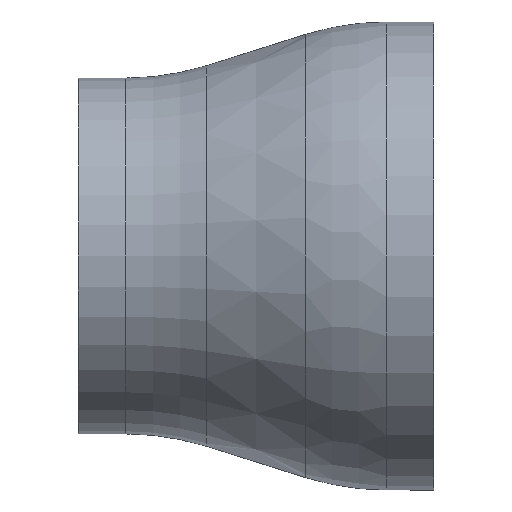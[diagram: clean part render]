
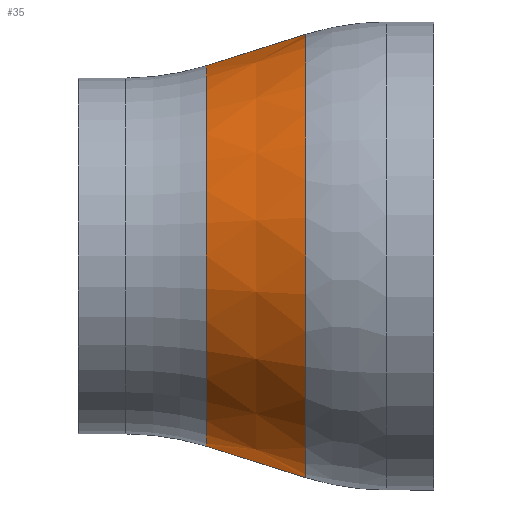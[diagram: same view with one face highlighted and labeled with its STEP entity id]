
A CAD part, front view. The second image highlights one B-rep face of the part: STEP entity #35.
In plain terms, the highlighted conical face has half-angle 17.484 degrees and reference radius 15.82 mm.
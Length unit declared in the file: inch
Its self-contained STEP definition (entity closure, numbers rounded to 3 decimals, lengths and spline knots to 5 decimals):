
#3 = VERTEX_POINT ( 'NONE', #431 ) ;
#19 = CIRCLE ( 'NONE', #492, 0.62285 ) ;
#21 = VECTOR ( 'NONE', #573, 39.37008 ) ;
#35 = ADVANCED_FACE ( 'NONE', ( #276 ), #254, .T. ) ;
#63 = EDGE_CURVE ( 'NONE', #413, #138, #261, .T. ) ;
#70 = LINE ( 'NONE', #302, #21 ) ;
#138 = VERTEX_POINT ( 'NONE', #158 ) ;
#145 = AXIS2_PLACEMENT_3D ( 'NONE', #374, #368, #364 ) ;
#158 = CARTESIAN_POINT ( 'NONE',  ( 0.64, 0., 0.62285 ) ) ;
#181 = CARTESIAN_POINT ( 'NONE',  ( 0.36, 0., -0.53465 ) ) ;
#196 = CIRCLE ( 'NONE', #145, 0.53465 ) ;
#235 = DIRECTION ( 'NONE',  ( 0., 0., 1. ) ) ;
#254 = CONICAL_SURFACE ( 'NONE', #346, 0.62285, 0.305 ) ;
#261 = LINE ( 'NONE', #327, #262 ) ;
#262 = VECTOR ( 'NONE', #263, 39.37008 ) ;
#263 = DIRECTION ( 'NONE',  ( 0.954, 0., 0.3 ) ) ;
#276 = FACE_OUTER_BOUND ( 'NONE', #478, .T. ) ;
#302 = CARTESIAN_POINT ( 'NONE',  ( 0.64, 0., -0.62285 ) ) ;
#327 = CARTESIAN_POINT ( 'NONE',  ( 0.64, 0., 0.62285 ) ) ;
#346 = AXIS2_PLACEMENT_3D ( 'NONE', #406, #518, #498 ) ;
#356 = ORIENTED_EDGE ( 'NONE', *, *, #63, .F. ) ;
#360 = ORIENTED_EDGE ( 'NONE', *, *, #595, .T. ) ;
#364 = DIRECTION ( 'NONE',  ( 0., 0., 1. ) ) ;
#368 = DIRECTION ( 'NONE',  ( -1., 0., 0. ) ) ;
#374 = CARTESIAN_POINT ( 'NONE',  ( 0.36, 0., 0. ) ) ;
#406 = CARTESIAN_POINT ( 'NONE',  ( 0.64, 0., 0. ) ) ;
#413 = VERTEX_POINT ( 'NONE', #456 ) ;
#431 = CARTESIAN_POINT ( 'NONE',  ( 0.64, 0., -0.62285 ) ) ;
#446 = ORIENTED_EDGE ( 'NONE', *, *, #606, .T. ) ;
#448 = EDGE_CURVE ( 'NONE', #509, #413, #196, .T. ) ;
#456 = CARTESIAN_POINT ( 'NONE',  ( 0.36, 0., 0.53465 ) ) ;
#478 = EDGE_LOOP ( 'NONE', ( #356, #479, #360, #446 ) ) ;
#479 = ORIENTED_EDGE ( 'NONE', *, *, #448, .F. ) ;
#492 = AXIS2_PLACEMENT_3D ( 'NONE', #621, #611, #235 ) ;
#498 = DIRECTION ( 'NONE',  ( 0., 0., -1. ) ) ;
#509 = VERTEX_POINT ( 'NONE', #181 ) ;
#518 = DIRECTION ( 'NONE',  ( 1., 0., 0. ) ) ;
#573 = DIRECTION ( 'NONE',  ( 0.954, 0., -0.3 ) ) ;
#595 = EDGE_CURVE ( 'NONE', #509, #3, #70, .T. ) ;
#606 = EDGE_CURVE ( 'NONE', #3, #138, #19, .T. ) ;
#611 = DIRECTION ( 'NONE',  ( -1., 0., 0. ) ) ;
#621 = CARTESIAN_POINT ( 'NONE',  ( 0.64, 0., 0. ) ) ;
